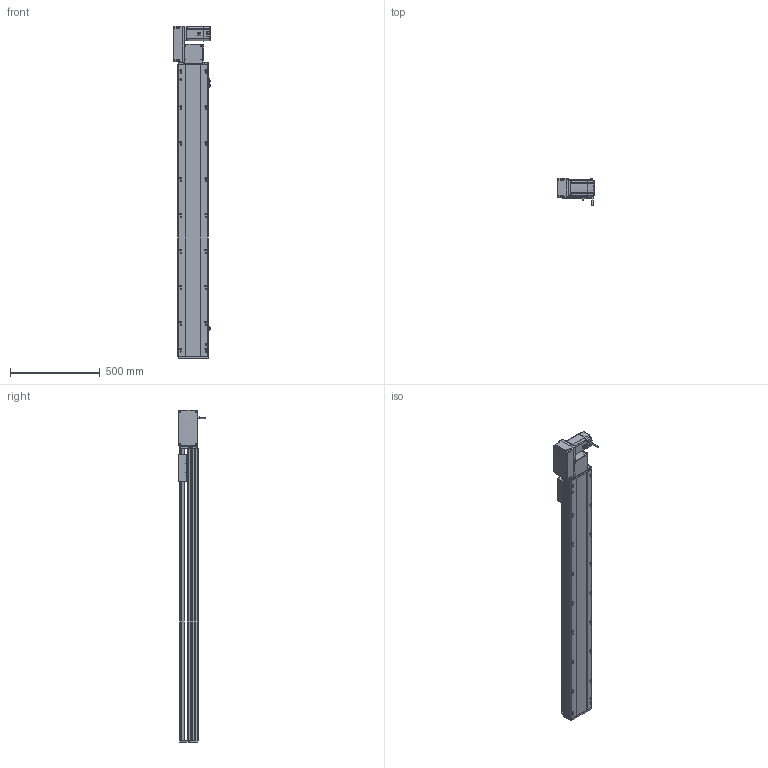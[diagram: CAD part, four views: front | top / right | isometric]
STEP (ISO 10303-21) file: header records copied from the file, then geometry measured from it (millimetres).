
FILE_DESCRIPTION (( 'STEP AP214' ), '1' );
FILE_NAME ('RTB17S-XX-1350-L-M75-C4.STEP', '2025-12-12T00:15:06', ( '' ), ( '' ), 'SwSTEP 2.0', 'SolidWorks 2018', '' );
FILE_SCHEMA (( 'AUTOMOTIVE_DESIGN' ));
Length unit declared in the file: millimetre
Products named in the file (15): RTB17S-L-007奻裔^RTB17S-XX-XX-L-M75-C4; RTB17-R-011菁釱^RTB17S-XX-XX-L-M75-C4; EE672^RTB17S-XX-XX-L-M75-C4; RTB17S-賑釱^RTB17S-XX-XX-L-M75-C4; RTB17S-XX-1350-L-M75-C4; RTB17S-L-004-賑釱^RTB17S-賑釱_RTB17S-XX-XX-L-M75-C4; RMP17S-L-014-T20-P75--々湍釱^RTB17S-L-々湍釱蚾饜-750W_RTB17S-XX-XX-L-M75-C4; RTB17S-L-001-耜醱啣^RTB17S-XX-XX-L-M75-C4; RTB17S-L-々湍釱蚾饜-750W^RTB17S-XX-XX-L-M75-C4; RTB22S-GY-018P^RTB17S-L-々湍釱蚾饜-750W_RTB17S-XX-XX-L-M75-C4; RTB22S-GY-008-M75--萇儂啣^RTB17S-L-々湍釱蚾饜-750W_RTB17S-XX-XX-L-M75-C4; RTH13-BL-012覜茼え俋离^RTB17S-賑釱_RTB17S-XX-XX-L-M75-C4; RTB22S-GY-017P^RTB17S-L-々湍釱蚾饜-750W_RTB17S-XX-XX-L-M75-C4; 750W萇儂^RTB17S-XX-XX-L-M75-C4; RTB22S-GY-005P^RTB17S-L-々湍釱蚾饜-750W_RTB17S-XX-XX-L-M75-C4
Assembly tree (17 placements, depth 3):
  RTB17S-XX-1350-L-M75-C4
    RTB17-R-011菁釱^RTB17S-XX-XX-L-M75-C4
    EE672^RTB17S-XX-XX-L-M75-C4  x3
    RTB17S-L-001-耜醱啣^RTB17S-XX-XX-L-M75-C4
    RTB17S-賑釱^RTB17S-XX-XX-L-M75-C4
      RTB17S-L-004-賑釱^RTB17S-賑釱_RTB17S-XX-XX-L-M75-C4
      RTH13-BL-012覜茼え俋离^RTB17S-賑釱_RTB17S-XX-XX-L-M75-C4
    RTB17S-L-007奻裔^RTB17S-XX-XX-L-M75-C4
    750W萇儂^RTB17S-XX-XX-L-M75-C4
    RTB17S-L-々湍釱蚾饜-750W^RTB17S-XX-XX-L-M75-C4
      RMP17S-L-014-T20-P75--々湍釱^RTB17S-L-々湍釱蚾饜-750W_RTB17S-XX-XX-L-M75-C4
      RTB22S-GY-005P^RTB17S-L-々湍釱蚾饜-750W_RTB17S-XX-XX-L-M75-C4
      RTB22S-GY-017P^RTB17S-L-々湍釱蚾饜-750W_RTB17S-XX-XX-L-M75-C4  x2
      RTB22S-GY-008-M75--萇儂啣^RTB17S-L-々湍釱蚾饜-750W_RTB17S-XX-XX-L-M75-C4
      RTB22S-GY-018P^RTB17S-L-々湍釱蚾饜-750W_RTB17S-XX-XX-L-M75-C4
Bounding box: 210.4 x 152.7 x 1849 mm (x, y, z)
Volume: 14389044.7 mm3; surface area: 2500834.3 mm2
Topology: 17 solids, 17 shells, 2121 faces, 5890 edges, 3806 vertices
Faces by surface type: plane 974, cylinder 731, bspline 294, cone 110, sphere 8, torus 4
Entity records: 59638 total; most frequent: CARTESIAN_POINT 17554, ORIENTED_EDGE 8624, DIRECTION 8042, EDGE_CURVE 4312, AXIS2_PLACEMENT_3D 2826, VERTEX_POINT 2810, VECTOR 2390, LINE 2390
